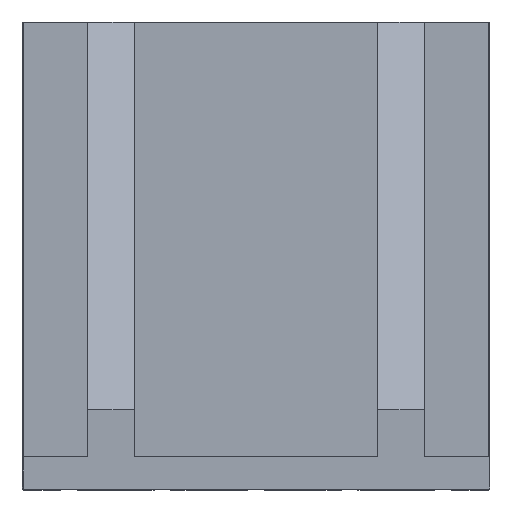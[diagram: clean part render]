
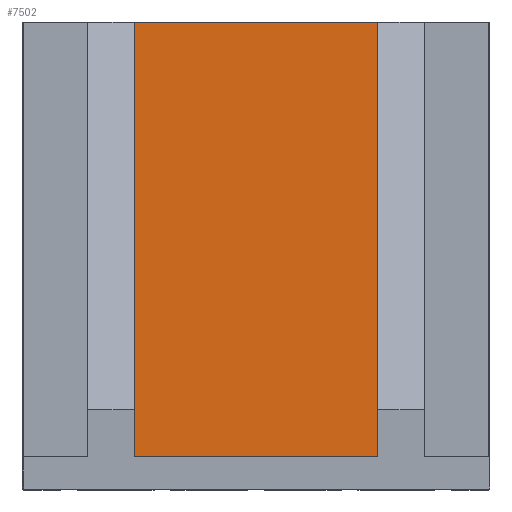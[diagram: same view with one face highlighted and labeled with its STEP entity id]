
A CAD part, top view. The second image highlights one B-rep face of the part: STEP entity #7502.
In plain terms, the highlighted planar face has unit normal (0, 0, 1).
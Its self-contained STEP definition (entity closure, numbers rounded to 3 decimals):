
#1344=DIRECTION('',(1.,0.,0.));
#1345=VECTOR('',#1344,260.);
#1346=CARTESIAN_POINT('',(-130.,35.,66.));
#1347=LINE('',#1346,#1345);
#1492=DIRECTION('',(0.,-1.,0.));
#1493=VECTOR('',#1492,465.);
#1494=CARTESIAN_POINT('',(130.,500.,66.));
#1495=LINE('',#1494,#1493);
#1496=DIRECTION('',(0.,-1.,0.));
#1497=VECTOR('',#1496,465.);
#1498=CARTESIAN_POINT('',(-130.,500.,66.));
#1499=LINE('',#1498,#1497);
#1500=DIRECTION('',(1.,0.,0.));
#1501=VECTOR('',#1500,260.);
#1502=CARTESIAN_POINT('',(-130.,500.,66.));
#1503=LINE('',#1502,#1501);
#4453=CARTESIAN_POINT('',(-130.,500.,66.));
#4454=CARTESIAN_POINT('',(-130.,35.,66.));
#4455=VERTEX_POINT('',#4453);
#4456=VERTEX_POINT('',#4454);
#4479=CARTESIAN_POINT('',(130.,500.,66.));
#4480=VERTEX_POINT('',#4479);
#4483=CARTESIAN_POINT('',(130.,35.,66.));
#4484=VERTEX_POINT('',#4483);
#7490=CARTESIAN_POINT('',(-250.,500.,66.));
#7491=DIRECTION('',(0.,0.,1.));
#7492=DIRECTION('',(0.,-1.,0.));
#7493=AXIS2_PLACEMENT_3D('',#7490,#7491,#7492);
#7494=PLANE('',#7493);
#7495=ORIENTED_EDGE('',*,*,#7410,.T.);
#7496=ORIENTED_EDGE('',*,*,#7330,.F.);
#7498=ORIENTED_EDGE('',*,*,#7497,.F.);
#7499=ORIENTED_EDGE('',*,*,#6222,.T.);
#7500=EDGE_LOOP('',(#7495,#7496,#7498,#7499));
#7501=FACE_OUTER_BOUND('',#7500,.F.);
#7502=ADVANCED_FACE('',(#7501),#7494,.T.);
#6222=EDGE_CURVE('',#4455,#4480,#1503,.T.);
#7330=EDGE_CURVE('',#4456,#4484,#1347,.T.);
#7410=EDGE_CURVE('',#4480,#4484,#1495,.T.);
#7497=EDGE_CURVE('',#4455,#4456,#1499,.T.);
